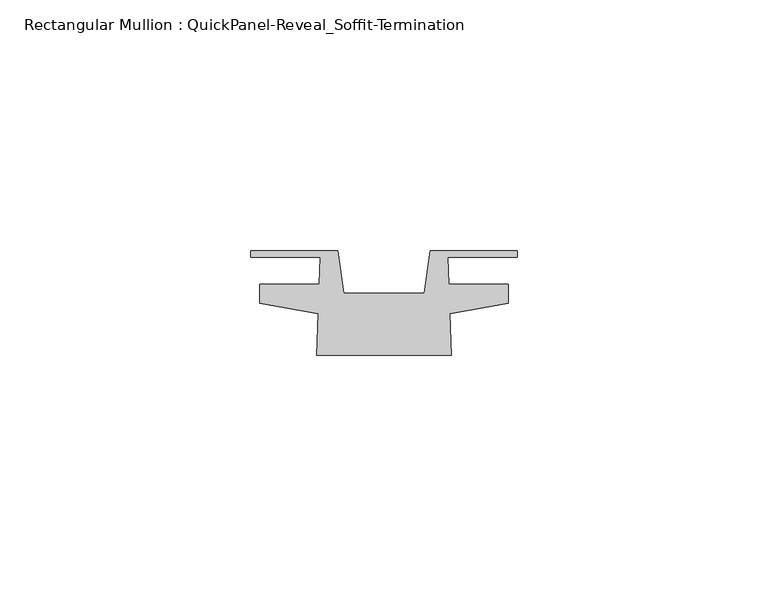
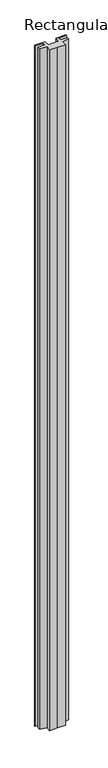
"""IFC4 building model written with IfcOpenShell, lengths in millimetres: member geometry, Rectangular Mullion : QuickPanel-Reveal_Soffit-Termination."""

from ifc_helpers import new_model, si_unit, frame, origin, place, context, project, spatial, polyline, outline, extrude, source, transform, mapped, element, save


def rectangular_mullion_quickpanel_reveal_soffit_termination_9aabd70b(model_context):
    return source(origin(), model_context, "Body", "SweptSolid", [
        extrude(outline(polyline([(-26.5942114, -16.8526378), (-40.0048947, -16.8526378), (-39.7159576, -8.5785638), (-51.4248353, -6.5712869), (-51.4248353, -2.7399197), (-39.5120677, -2.7399197), (-39.3225512, 2.6871227), (-53.1884228, 2.6871227), (-53.1884228, 3.9571227), (-35.7894924, 3.9571227), (-34.6007746, -4.5010435), (-18.5876481, -4.5010435), (-17.3989304, 3.9571227), (0.0, 3.9571227), (0.0, 2.6871227), (-13.8658716, 2.6871227), (-13.6763551, -2.7399197), (-1.7635875, -2.7399197), (-1.7635875, -6.5712869), (-13.4724652, -8.5785638), (-13.1835281, -16.8526378), (-26.5942114, -16.8526378)])), frame((0.0, 0.0, -1219.2), z_axis=(0.0, 0.0, 1.0), x_axis=(1.0, 0.0, 0.0)), (0.0, 0.0, 1.0), 1219.2),
    ])


if __name__ == "__main__":
    model = new_model("IFC4")
    model_context = context("Model", 3, world=origin())
    ifc_project = project(units=[si_unit("LENGTHUNIT", "METRE", prefix="MILLI")], contexts=[model_context])
    site = spatial("IfcSite", under=ifc_project)
    building = spatial("IfcBuilding", under=site)
    placement = place(None, origin())
    rectangular_mullion_quickpanel_reveal_soffit_termination_shape = rectangular_mullion_quickpanel_reveal_soffit_termination_9aabd70b(model_context)
    element("IfcMember", 1, ObjectType="Rectangular Mullion : QuickPanel-Reveal_Soffit-Termination", at=placement, inside=building, context=model_context, shape_type="MappedRepresentation", body=[
        mapped(rectangular_mullion_quickpanel_reveal_soffit_termination_shape, transform((0.0, 0.0, 0.0), x_axis=(1.0, 0.0, 0.0), y_axis=(0.0, 1.0, 0.0), z_axis=(0.0, 0.0, 1.0))),
    ])
    save(model, "model.ifc")
